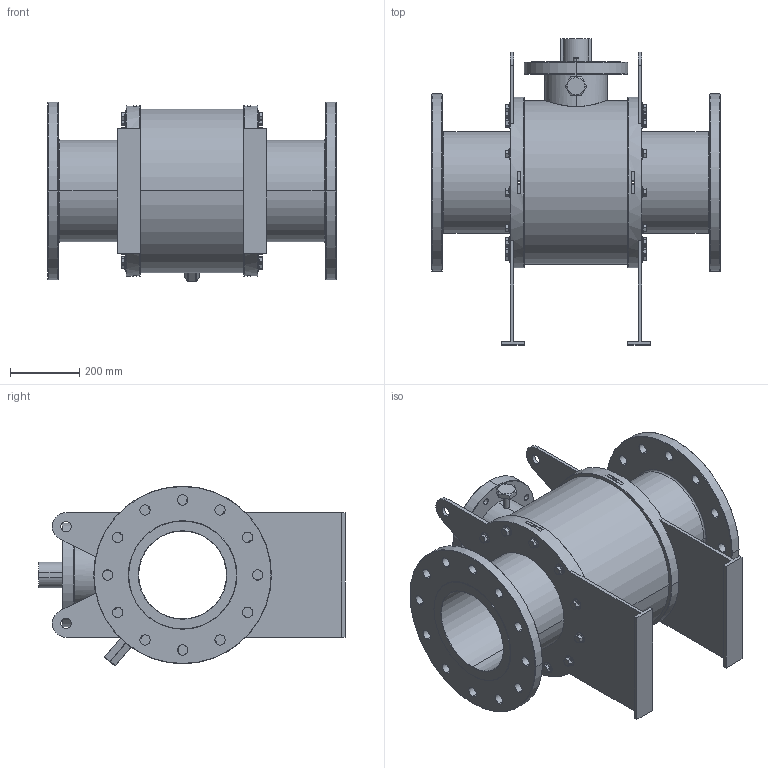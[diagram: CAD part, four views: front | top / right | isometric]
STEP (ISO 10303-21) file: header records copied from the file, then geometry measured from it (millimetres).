
FILE_DESCRIPTION (( 'STEP AP203' ), '1' );
FILE_NAME ('GB2_ANSI_900_10IN_TW.STEP', '2025-10-09T15:06:58', ( '' ), ( '' ), 'SwSTEP 2.0', 'SolidWorks 2025', '' );
FILE_SCHEMA (( 'CONFIG_CONTROL_DESIGN' ));
Length unit declared in the file: millimetre
Products named in the file (3): GB2_ANSI_900_10IN_TW; GB2_ANSI_2500_1500_ANSI_900_10IN; hex flange screw_am_B18.2.3.4M - Hex flange screw, M16 x 2.0 x 25 --25N
Assembly tree (25 placements, depth 2):
  GB2_ANSI_900_10IN_TW
    GB2_ANSI_2500_1500_ANSI_900_10IN
    hex flange screw_am_B18.2.3.4M - Hex flange screw, M16 x 2.0 x 25 --25N  x24
Bounding box: 838 x 885.5 x 519.93 mm (x, y, z)
Volume: 72719819 mm3; surface area: 3535299.3 mm2
Topology: 25 solids, 25 shells, 1041 faces, 2326 edges, 1392 vertices
Faces by surface type: plane 325, cone 270, cylinder 230, bspline 156, torus 54, sphere 6
Entity records: 13955 total; most frequent: CARTESIAN_POINT 3938, DIRECTION 2022, ORIENTED_EDGE 1792, EDGE_CURVE 896, AXIS2_PLACEMENT_3D 820, VERTEX_POINT 562, EDGE_LOOP 492, CIRCLE 436
